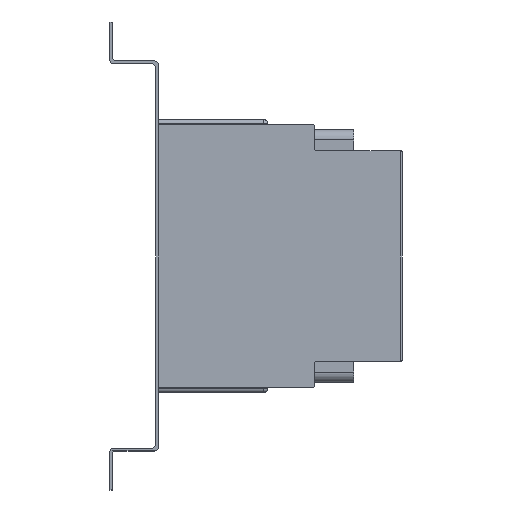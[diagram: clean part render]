
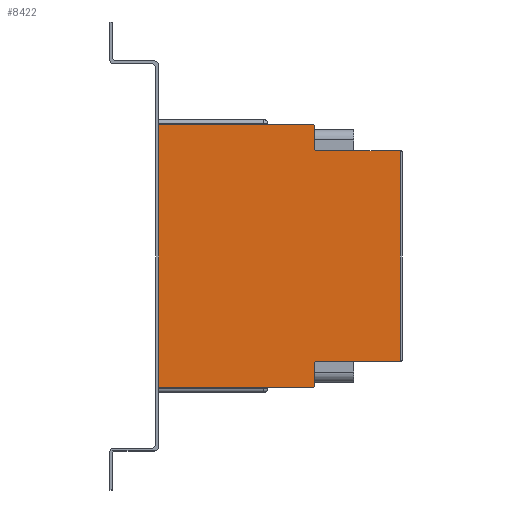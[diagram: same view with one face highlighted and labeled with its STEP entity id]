
A CAD part, left-side view. The second image highlights one B-rep face of the part: STEP entity #8422.
In plain terms, the highlighted planar face has unit normal (-1, 0, 0).
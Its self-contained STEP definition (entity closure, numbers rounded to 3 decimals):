
#302=PLANE('',#8926);
#605=FACE_OUTER_BOUND('',#1085,.T.);
#1085=EDGE_LOOP('',(#5946,#5947,#5948,#5949,#5950,#5951,#5952,#5953,#5954,
#5955,#5956,#5957));
#1624=LINE('',#11887,#2534);
#1702=LINE('',#12065,#2612);
#1729=LINE('',#12122,#2639);
#1744=LINE('',#12151,#2654);
#1745=LINE('',#12152,#2655);
#1746=LINE('',#12156,#2656);
#1747=LINE('',#12160,#2657);
#1748=LINE('',#12161,#2658);
#2534=VECTOR('',#9628,43.);
#2612=VECTOR('',#9742,43.);
#2639=VECTOR('',#9777,79.);
#2654=VECTOR('',#9794,11.5);
#2655=VECTOR('',#9795,108.);
#2656=VECTOR('',#9798,11.5);
#2657=VECTOR('',#9801,79.);
#2658=VECTOR('',#9802,135.);
#3425=CIRCLE('',#8909,1.);
#3429=CIRCLE('',#8923,1.);
#3431=CIRCLE('',#8927,1.);
#3432=CIRCLE('',#8928,1.);
#3681=VERTEX_POINT('',#11884);
#3682=VERTEX_POINT('',#11886);
#3727=VERTEX_POINT('',#11981);
#3763=VERTEX_POINT('',#12062);
#3764=VERTEX_POINT('',#12064);
#3786=VERTEX_POINT('',#12112);
#3787=VERTEX_POINT('',#12113);
#3790=VERTEX_POINT('',#12121);
#3804=VERTEX_POINT('',#12153);
#3805=VERTEX_POINT('',#12155);
#3806=VERTEX_POINT('',#12157);
#3807=VERTEX_POINT('',#12159);
#4531=EDGE_CURVE('',#3682,#3681,#1624,.T.);
#4579=EDGE_CURVE('',#3682,#3727,#3425,.T.);
#4619=EDGE_CURVE('',#3764,#3763,#1702,.T.);
#4644=EDGE_CURVE('',#3786,#3787,#3429,.T.);
#4648=EDGE_CURVE('',#3790,#3787,#1729,.T.);
#4663=EDGE_CURVE('',#3786,#3727,#1744,.T.);
#4664=EDGE_CURVE('',#3764,#3681,#1745,.T.);
#4665=EDGE_CURVE('',#3804,#3763,#3431,.T.);
#4666=EDGE_CURVE('',#3804,#3805,#1746,.T.);
#4667=EDGE_CURVE('',#3806,#3805,#3432,.T.);
#4668=EDGE_CURVE('',#3806,#3807,#1747,.T.);
#4669=EDGE_CURVE('',#3790,#3807,#1748,.T.);
#5946=ORIENTED_EDGE('',*,*,#4644,.F.);
#5947=ORIENTED_EDGE('',*,*,#4663,.T.);
#5948=ORIENTED_EDGE('',*,*,#4579,.F.);
#5949=ORIENTED_EDGE('',*,*,#4531,.T.);
#5950=ORIENTED_EDGE('',*,*,#4664,.F.);
#5951=ORIENTED_EDGE('',*,*,#4619,.T.);
#5952=ORIENTED_EDGE('',*,*,#4665,.F.);
#5953=ORIENTED_EDGE('',*,*,#4666,.T.);
#5954=ORIENTED_EDGE('',*,*,#4667,.F.);
#5955=ORIENTED_EDGE('',*,*,#4668,.T.);
#5956=ORIENTED_EDGE('',*,*,#4669,.F.);
#5957=ORIENTED_EDGE('',*,*,#4648,.T.);
#8422=ADVANCED_FACE('',(#605),#302,.T.);
#8909=AXIS2_PLACEMENT_3D('',#11982,#9683,#9684);
#8923=AXIS2_PLACEMENT_3D('',#12114,#9769,#9770);
#8926=AXIS2_PLACEMENT_3D('',#12150,#9792,#9793);
#8927=AXIS2_PLACEMENT_3D('',#12154,#9796,#9797);
#8928=AXIS2_PLACEMENT_3D('',#12158,#9799,#9800);
#9628=DIRECTION('',(0.,-1.,0.));
#9683=DIRECTION('center_axis',(-1.,0.,0.));
#9684=DIRECTION('ref_axis',(0.,0.707,0.707));
#9742=DIRECTION('',(0.,1.,0.));
#9769=DIRECTION('center_axis',(1.,0.,0.));
#9770=DIRECTION('ref_axis',(0.,-0.707,-0.707));
#9777=DIRECTION('',(0.,-1.,0.));
#9792=DIRECTION('center_axis',(-1.,0.,0.));
#9793=DIRECTION('ref_axis',(0.,-1.,0.));
#9794=DIRECTION('',(0.,0.,1.));
#9795=DIRECTION('',(0.,0.,-1.));
#9796=DIRECTION('center_axis',(-1.,0.,0.));
#9797=DIRECTION('ref_axis',(0.,0.707,-0.707));
#9798=DIRECTION('',(0.,0.,1.));
#9799=DIRECTION('center_axis',(1.,0.,0.));
#9800=DIRECTION('ref_axis',(0.,-0.707,0.707));
#9801=DIRECTION('',(0.,1.,0.));
#9802=DIRECTION('',(0.,0.,1.));
#11884=CARTESIAN_POINT('',(30.645,-278.265,42.5));
#11886=CARTESIAN_POINT('',(30.645,-235.265,42.5));
#11887=CARTESIAN_POINT('',(30.645,-234.265,42.5));
#11981=CARTESIAN_POINT('',(30.645,-234.265,41.5));
#11982=CARTESIAN_POINT('Origin',(30.645,-235.265,41.5));
#12062=CARTESIAN_POINT('',(30.645,-235.265,150.5));
#12064=CARTESIAN_POINT('',(30.645,-278.265,150.5));
#12065=CARTESIAN_POINT('',(30.645,-279.265,150.5));
#12112=CARTESIAN_POINT('',(30.645,-234.265,30.));
#12113=CARTESIAN_POINT('',(30.645,-233.265,29.));
#12114=CARTESIAN_POINT('Origin',(30.645,-233.265,30.));
#12121=CARTESIAN_POINT('',(30.645,-154.265,29.));
#12122=CARTESIAN_POINT('',(30.645,-154.265,29.));
#12150=CARTESIAN_POINT('Origin',(30.645,-214.428,96.5));
#12151=CARTESIAN_POINT('',(30.645,-234.265,29.));
#12152=CARTESIAN_POINT('',(30.645,-278.265,69.5));
#12153=CARTESIAN_POINT('',(30.645,-234.265,151.5));
#12154=CARTESIAN_POINT('Origin',(30.645,-235.265,151.5));
#12155=CARTESIAN_POINT('',(30.645,-234.265,163.));
#12156=CARTESIAN_POINT('',(30.645,-234.265,150.5));
#12157=CARTESIAN_POINT('',(30.645,-233.265,164.));
#12158=CARTESIAN_POINT('Origin',(30.645,-233.265,163.));
#12159=CARTESIAN_POINT('',(30.645,-154.265,164.));
#12160=CARTESIAN_POINT('',(30.645,-234.265,164.));
#12161=CARTESIAN_POINT('',(30.645,-154.265,146.5));
